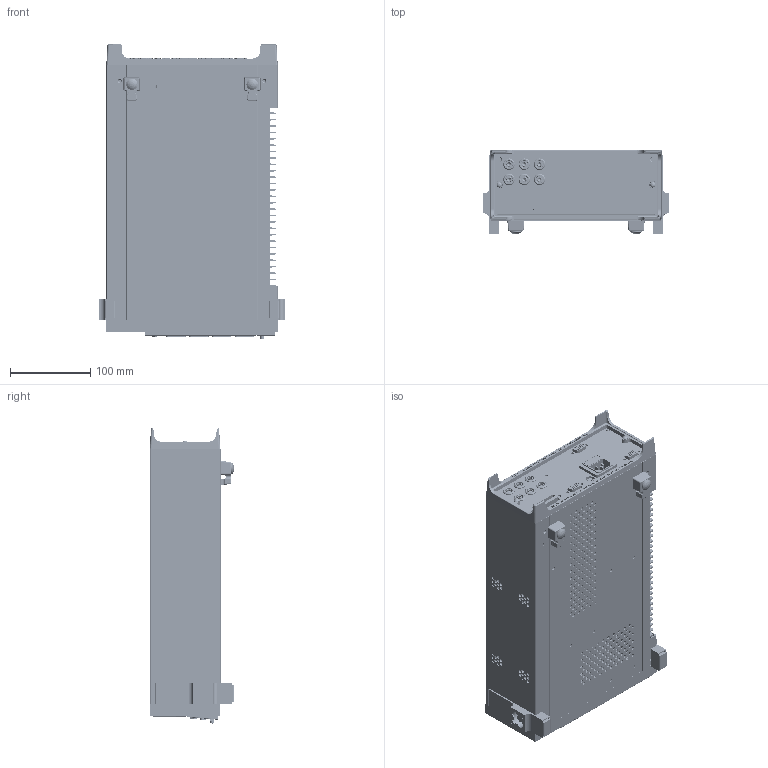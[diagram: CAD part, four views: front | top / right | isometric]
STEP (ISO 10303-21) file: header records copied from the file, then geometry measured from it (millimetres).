
FILE_DESCRIPTION((''),'2;1');
FILE_NAME('6430_ASM','2020-10-21T14:54:54',('afergus2'),('Keithley Instruments'),'CREO PARAMETRIC BY PTC INC, 2019080','CREO PARAMETRIC BY PTC INC, 2019080','');
FILE_SCHEMA(('AUTOMOTIVE_DESIGN { 1 0 10303 214 1 1 1 1 }'));
Length unit declared in the file: inch
Products named in the file (42): 6430-301; 6430-303; 6430-304; 6430-303_ASM; 6430-302_ASM; BJ-30-2-SHELL; BJ-30-2-PIN; BJ-30-2_ASM; BJ-14-SHELL; BJ-14-PIN; BJ-14-9_ASM; BJ-30-0-SHELL; BJ-30-0-PIN; BJ-30-0_ASM; 2602-356_AF0; 2400-334_ASM; 2400-307; 2400-335_ASM; 6430-311; 2001-318; 2400-337_ASM; 6430-333; 2602-351; FE-6; LF-11-FUSELESS; 704-333; AMP-1658690-1; CS-638-3; CS-638-7; CA-183; CA-183_ASM; 2400-308; 2400-338; 2602-350; CS-501; CS-762; FA-232-1; 4-40X1-4PFHUC; 2602-354; 2602-352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
Assembly tree (51 placements, depth 4):
  6430_ASM
    6430-302_ASM
      6430-301
      6430-303_ASM
        6430-303
        6430-304
    BJ-30-2_ASM  x2
      BJ-30-2-SHELL
      BJ-30-2-PIN
    BJ-14-9_ASM  x2
      BJ-14-SHELL
      BJ-14-PIN
    BJ-30-0_ASM  x2
      BJ-30-0-SHELL
      BJ-30-0-PIN
    2400-335_ASM
      2400-334_ASM
        2602-356_AF0
      2400-307
    6430-311
    2400-337_ASM
      2001-318
    6430-333
    2602-351  x2
    FE-6  x2
    LF-11-FUSELESS
    704-333
    CA-183_ASM
      AMP-1658690-1
      CS-638-3
      CS-638-7
      CA-183
    2400-308
    2400-338
    2602-350
    CS-501
    AMP-1658690-1  x2
    CS-762
    FA-232-1  x2
    4-40X1-4PFHUC  x2
    2602-354
    2602-352
    FE-22  x2
Bounding box: 232.66 x 105.44 x 368.1 mm (x, y, z)
Volume: 781370.1 mm3; surface area: 744215.4 mm2
Topology: 48 solids, 48 shells, 7226 faces, 94915 edges, 92066 vertices
Faces by surface type: plane 4937, cylinder 1955, cone 120, bspline 84, torus 78, sphere 50, extrusion 2
Entity records: 979088 total; most frequent: CARTESIAN_POINT 129064, DIRECTION 111533, PRESENTATION_STYLE_ASSIGNMENT 93236, STYLED_ITEM 93194, CURVE_STYLE 91857, VECTOR 90290, LINE 90288, TRIMMED_CURVE 76281
